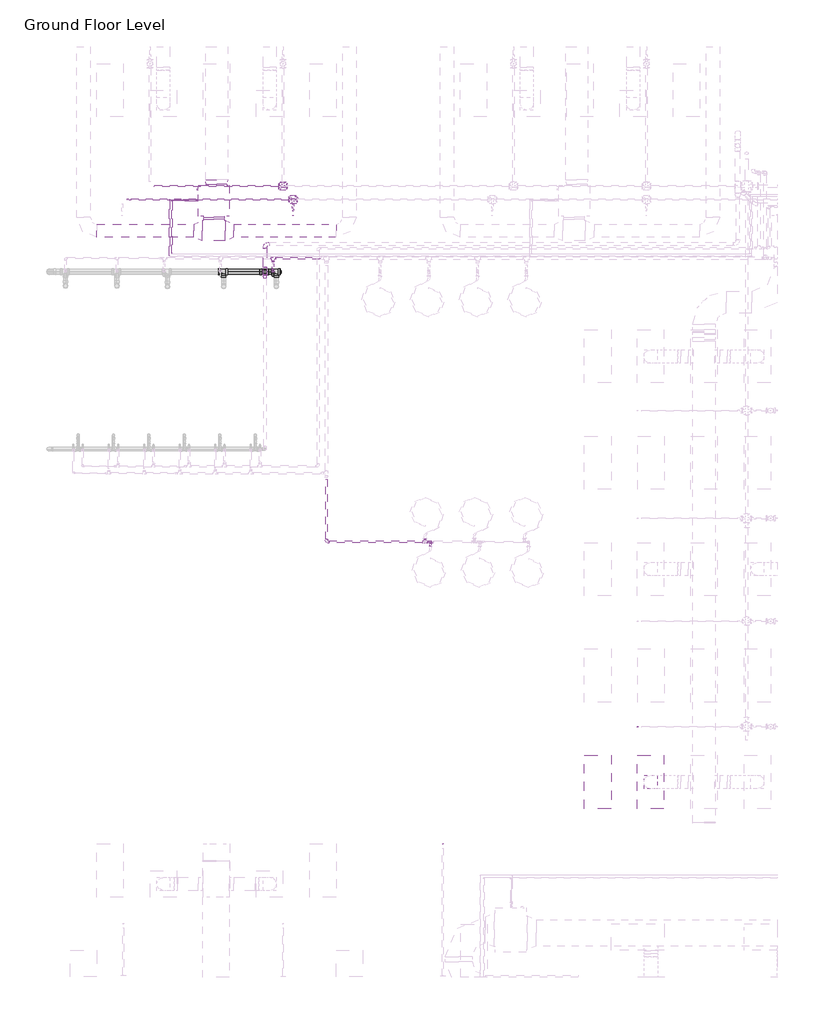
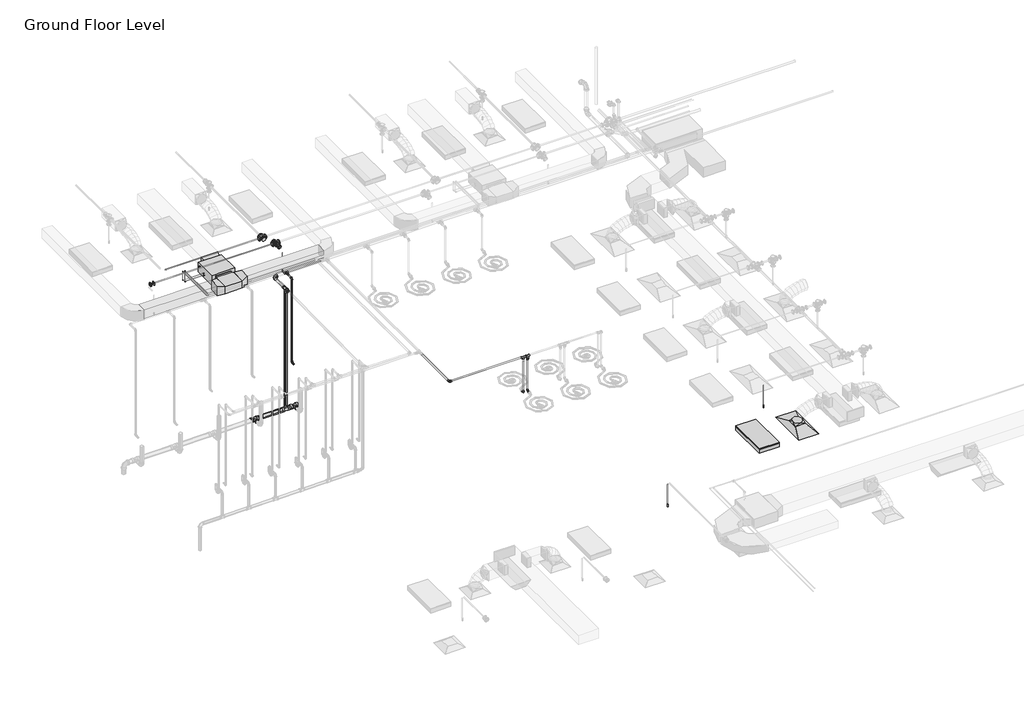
# One storey, part 43 of 74: 28 pipe segments, 25 pipe fittings, 5 duct fittings, 3 duct segments, 3 fire suppression terminals, 1 air terminal, 1 light fixture, 1 proxy.
"""IFC4 building model written with IfcOpenShell, lengths in millimetres."""

from ifc_helpers import new_model, si_unit, point, frame, frame_2d, origin, place, context, project, spatial, polyline, circle_curve, trimmed, segment, composite_curve, outline, extrude, transform, mapped, element, save
from components import m_return_diffuser_1200x600_1200_x_600_face_300_x_300_d1983ef6, fcu_daikin_iu_bad131e0, m_rectangular_tee_standard_fa4de0e8, m_rectangular_transition_angle_45_degree_5a11b24e, m_rectangular_transition_angle_45_degree_6e5ad010, m_rectangular_to_round_transition_angle_45_degree_641efff0, m_sprinkler_dry_pendent_hosted_15_mm_dry_pendent_9bda8e11, m_sprinkler_pendent_15_mm_pendent_06fcbd8e, m_troffer_light_parabolic_rectangular1_0600x1200mm_4_lamp_86473d4a, m_bend_pvc_sch_40_dwv_standard_1fdc8943, m_elbow_generic_standard_a088f956, m_elbow_generic_standard_2a704253, m_plug_pvc_sch_40_dwv_standard_6c40de1c, m_reducer_flanged_cs_class_150_standard_ccf252ad, m_reducer_pvc_sch_40_dwv_standard_d6f2da47, m_tee_reducing_sanitary_pvc_sch_40_dwv_standard_b49161a9, m_tee_reducing_sanitary_pvc_sch_40_dwv_standard_35af4ecc, m_tee_reducing_sanitary_pvc_sch_40_dwv_standard_9cd1363b, m_tee_round_base_flanged_cs_class_150_standard_7e5987a1, standard_517a5a8d, standard_08ff6011, standard_d0d0b892, standard_69e4ce0e

model = new_model("IFC4")

# Units and contexts
model_context = context("Model", 3, world=origin())
ifc_project = project(units=[si_unit("LENGTHUNIT", "METRE", prefix="MILLI")], contexts=[model_context])

# Site, building, storey
site = spatial("IfcSite", under=ifc_project)
building = spatial("IfcBuilding", under=site)
storey = spatial("IfcBuildingStorey", under=building, Name="Ground Floor Level", Elevation=900.0)

# Air terminal
placement = place(None, origin())
m_return_diffuser_1200x600_1200_x_600_face_300_x_300_shape = m_return_diffuser_1200x600_1200_x_600_face_300_x_300_d1983ef6(model_context)
element("IfcAirTerminal", 1, ObjectType="M_Supply Diffuser 1200x600 : 1200 x 600 Face 300 x 300 Connection", at=placement, inside=storey, context=model_context, shape_type="MappedRepresentation", body=[
    mapped(m_return_diffuser_1200x600_1200_x_600_face_300_x_300_shape, transform((-8142.6846929, 1635.2153534, 3650.0), x_axis=(0.0, 1.0, 0.0), y_axis=(-1.0, 0.0, 0.0), z_axis=(0.0, 0.0, 1.0))),
])

# Proxy
fcu_daikin_iu_shape = fcu_daikin_iu_bad131e0(model_context)
element("IfcBuildingElementProxy", 2, Name="FCU-DAIKIN IU : 4.5kW, 230V/50Hz/1Ph", ObjectType="FCU-DAIKIN IU : 4.5kW, 230V/50Hz/1Ph", at=placement, inside=storey, context=model_context, shape_type="MappedRepresentation", body=[
    mapped(fcu_daikin_iu_shape, transform((-17997.2327605, 14745.2153534, 3934.0881511), x_axis=(-1.0, 0.0, 0.0), y_axis=(0.0, -1.0, 0.0), z_axis=(0.0, 0.0, 1.0))),
])

# Duct fittings
m_rectangular_tee_standard_shape = m_rectangular_tee_standard_fa4de0e8(model_context)
element("IfcDuctFitting", 3, ObjectType="M_Rectangular Tee : Standard", at=placement, inside=storey, context=model_context, shape_type="MappedRepresentation", body=[
    mapped(m_rectangular_tee_standard_shape, transform((-17997.2327605, 14069.8153534, 4075.2881511), x_axis=(-1.0, 0.0, 0.0), y_axis=(0.0, -1.0, 0.0), z_axis=(0.0, 0.0, 1.0))),
])
m_rectangular_transition_angle_45_degree_shape = m_rectangular_transition_angle_45_degree_5a11b24e(model_context)
element("IfcDuctFitting", 4, ObjectType="M_Rectangular Transition - Angle : 45 Degree", at=placement, inside=storey, context=model_context, shape_type="MappedRepresentation", body=[
    mapped(m_rectangular_transition_angle_45_degree_shape, transform((-17933.7327605, 15120.6153534, 4100.0006511), x_axis=(0.0, 1.0, 0.0), y_axis=(-1.0, 0.0, 0.0), z_axis=(0.0, 0.0, 1.0))),
])
m_rectangular_transition_angle_45_degree_2_shape = m_rectangular_transition_angle_45_degree_6e5ad010(model_context)
element("IfcDuctFitting", 5, ObjectType="M_Rectangular Transition - Angle : 45 Degree", at=placement, inside=storey, context=model_context, shape_type="MappedRepresentation", body=[
    mapped(m_rectangular_transition_angle_45_degree_2_shape, transform((-17741.2952605, 14069.8153534, 4075.2881511), x_axis=(1.0, 0.0, 0.0), y_axis=(0.0, 1.0, 0.0), z_axis=(0.0, 0.0, 1.0))),
])
element("IfcDuctFitting", 6, ObjectType="M_Rectangular Transition - Angle : 45 Degree", at=placement, inside=storey, context=model_context, shape_type="MappedRepresentation", body=[
    mapped(m_rectangular_transition_angle_45_degree_2_shape, transform((-18253.1702605, 14069.8153534, 4075.2881511), x_axis=(-1.0, 0.0, 0.0), y_axis=(0.0, -1.0, 0.0), z_axis=(0.0, 0.0, 1.0))),
])
m_rectangular_to_round_transition_angle_45_degree_shape = m_rectangular_to_round_transition_angle_45_degree_641efff0(model_context)
element("IfcDuctFitting", 7, ObjectType="M_Rectangular to Round Transition - Angle : 45 Degree", at=placement, inside=storey, context=model_context, shape_type="MappedRepresentation", body=[
    mapped(m_rectangular_to_round_transition_angle_45_degree_shape, transform((-8142.6846929, 1635.2153534, 3751.6), x_axis=(0.0, 0.0, 1.0), y_axis=(-1.0, 0.0, 0.0), z_axis=(0.0, -1.0, 0.0))),
])

# Duct segments
element("IfcDuctSegment", 8, ObjectType="Radius Elbows / Taps", at=placement, inside=storey, context=model_context, shape_type="SweptSolid", body=[
    extrude(outline(polyline([(-18228.1702605, 14369.8153534), (-17766.2952605, 14369.8153534), (-17766.2952605, 14325.7528534), (-18228.1702605, 14325.7528534), (-18228.1702605, 14369.8153534)])), frame((0.0, 0.0, 3968.1381511), z_axis=(0.0, 0.0, 1.0), x_axis=(1.0, 0.0, 0.0)), (0.0, 0.0, 1.0), 214.3),
])
element("IfcDuctSegment", 9, ObjectType="Radius Elbows / Taps", at=placement, inside=storey, context=model_context, shape_type="SweptSolid", body=[
    extrude(outline(polyline([(-17545.8948503, 13919.8153534), (-17545.8948503, 14219.8153534), (-15237.2327605, 14219.8153534), (-15237.2327605, 13919.8153534), (-17545.8948503, 13919.8153534)])), frame((0.0, 0.0, 3925.2881511), z_axis=(0.0, 0.0, 1.0), x_axis=(1.0, 0.0, 0.0)), (0.0, 0.0, 1.0), 300.0),
])
element("IfcDuctSegment", 10, ObjectType="Radius Elbows / Taps", at=placement, inside=storey, context=model_context, shape_type="SweptSolid", body=[
    extrude(outline(polyline([(-18448.5706707, 14219.8153534), (-18448.5706707, 13919.8153534), (-20637.2327605, 13919.8153534), (-20637.2327605, 14219.8153534), (-18448.5706707, 14219.8153534)])), frame((0.0, 0.0, 3925.2881511), z_axis=(0.0, 0.0, 1.0), x_axis=(1.0, 0.0, 0.0)), (0.0, 0.0, 1.0), 300.0),
])

# Fire suppression terminals
m_sprinkler_dry_pendent_hosted_15_mm_dry_pendent_shape = m_sprinkler_dry_pendent_hosted_15_mm_dry_pendent_9bda8e11(model_context)
element("IfcFireSuppressionTerminal", 11, ObjectType="M_Sprinkler - Dry - Pendent - Hosted : 15 mm Dry Pendent", at=placement, inside=storey, context=model_context, shape_type="MappedRepresentation", body=[
    mapped(m_sprinkler_dry_pendent_hosted_15_mm_dry_pendent_shape, transform((-8437.2327605, 2881.5134565, 3650.0), x_axis=(1.0, 0.0, 0.0), y_axis=(0.0, -1.0, 0.0), z_axis=(0.0, 0.0, -1.0))),
])
element("IfcFireSuppressionTerminal", 12, ObjectType="M_Sprinkler - Dry - Pendent - Hosted : 15 mm Dry Pendent", at=placement, inside=storey, context=model_context, shape_type="MappedRepresentation", body=[
    mapped(m_sprinkler_dry_pendent_hosted_15_mm_dry_pendent_shape, transform((-12837.2327605, 235.2153534, 3650.0), x_axis=(1.0, 0.0, 0.0), y_axis=(0.0, -1.0, 0.0), z_axis=(0.0, 0.0, -1.0))),
])
m_sprinkler_pendent_15_mm_pendent_shape = m_sprinkler_pendent_15_mm_pendent_06fcbd8e(model_context)
element("IfcFireSuppressionTerminal", 13, ObjectType="M_Sprinkler - Pendent : 15 mm Pendent", at=placement, inside=storey, context=model_context, shape_type="MappedRepresentation", body=[
    mapped(m_sprinkler_pendent_15_mm_pendent_shape, transform((-16210.1138499, 14412.7243649, 3650.0), x_axis=(1.0, 0.0, 0.0), y_axis=(0.0, 1.0, 0.0), z_axis=(0.0, 0.0, 1.0))),
])

# Light fixture
m_troffer_light_parabolic_rectangular1_0600x1200mm_4_lamp_shape = m_troffer_light_parabolic_rectangular1_0600x1200mm_4_lamp_86473d4a(model_context)
element("IfcLightFixture", 14, ObjectType="M_Troffer Light - Parabolic Rectangular1 : 0600x1200mm(4 Lamp) - 277V 2", at=placement, inside=storey, context=model_context, shape_type="MappedRepresentation", body=[
    mapped(m_troffer_light_parabolic_rectangular1_0600x1200mm_4_lamp_shape, transform((-9396.6986926, 1653.918855, 3650.0), x_axis=(0.0, 1.0, 0.0), y_axis=(-1.0, 0.0, 0.0), z_axis=(0.0, 0.0, 1.0))),
])

# Pipe fittings
m_bend_pvc_sch_40_dwv_standard_shape = m_bend_pvc_sch_40_dwv_standard_1fdc8943(model_context)
element("IfcPipeFitting", 15, ObjectType="M_Bend - PVC - Sch 40 - DWV : Standard", at=placement, inside=storey, context=model_context, shape_type="MappedRepresentation", body=[
    mapped(m_bend_pvc_sch_40_dwv_standard_shape, transform((-16844.3158637, 13768.8048932, 4050.2768363), x_axis=(-0.9999500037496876, 0.0, -0.009999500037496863), y_axis=(0.0, -1.0, 0.0), z_axis=(-0.009999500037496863, 0.0, 0.9999500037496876))),
])
m_elbow_generic_standard_shape = m_elbow_generic_standard_a088f956(model_context)
element("IfcPipeFitting", 16, ObjectType="M_Elbow - Generic : Standard", at=placement, inside=storey, context=model_context, shape_type="MappedRepresentation", body=[
    mapped(m_elbow_generic_standard_shape, transform((-18945.3327605, 14745.2153534, 4034.0881511), x_axis=(-1.0, 0.0, 0.0), y_axis=(0.0, 0.0, 1.0), z_axis=(0.0, 1.0, 0.0))),
])
element("IfcPipeFitting", 17, ObjectType="M_Elbow - Generic : Standard", at=placement, inside=storey, context=model_context, shape_type="MappedRepresentation", body=[
    mapped(m_elbow_generic_standard_shape, transform((-18945.3327605, 14745.2153534, 4380.0), x_axis=(0.0, 0.0, 1.0), y_axis=(0.0, -1.0, 0.0), z_axis=(1.0, 0.0, 0.0))),
])
m_elbow_generic_standard_2_shape = m_elbow_generic_standard_2a704253(model_context)
element("IfcPipeFitting", 18, ObjectType="M_Elbow - Generic : Standard", at=placement, inside=storey, context=model_context, shape_type="MappedRepresentation", body=[
    mapped(m_elbow_generic_standard_2_shape, transform((-18995.0192947, 14770.2153534, 4365.0), x_axis=(0.0, 1.0, 0.0), y_axis=(0.0, 0.0, -1.0), z_axis=(-1.0, 0.0, 0.0))),
])
element("IfcPipeFitting", 19, ObjectType="M_Elbow - Generic : Standard", at=placement, inside=storey, context=model_context, shape_type="MappedRepresentation", body=[
    mapped(m_elbow_generic_standard_2_shape, transform((-18995.0192947, 14770.2153534, 4084.8881511), x_axis=(0.0, 0.0, -1.0), y_axis=(1.0, 0.0, 0.0), z_axis=(0.0, -1.0, 0.0))),
])
m_plug_pvc_sch_40_dwv_standard_shape = m_plug_pvc_sch_40_dwv_standard_6c40de1c(model_context)
element("IfcPipeFitting", 20, ObjectType="M_Plug - PVC - Sch 40 - DWV : Standard", at=placement, inside=storey, context=model_context, shape_type="MappedRepresentation", body=[
    mapped(m_plug_pvc_sch_40_dwv_standard_shape, transform((-16497.5246709, 13143.7240477, 252.0903992), x_axis=(0.9999500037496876, 0.0, 0.009999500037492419), y_axis=(0.0, 1.0, 0.0), z_axis=(-0.009999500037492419, 0.0, 0.9999500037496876))),
])
m_reducer_flanged_cs_class_150_standard_shape = m_reducer_flanged_cs_class_150_standard_ccf252ad(model_context)
element("IfcPipeFitting", 21, ObjectType="M_Reducer - Flanged - CS - Class 150 : Standard", at=placement, inside=storey, context=model_context, shape_type="MappedRepresentation", body=[
    mapped(m_reducer_flanged_cs_class_150_standard_shape, transform((-19856.6717995, 14773.4681847, 4291.0943441), x_axis=(-1.0, 0.0, 0.0), y_axis=(0.0, -1.0, 0.0), z_axis=(0.0, 0.0, 1.0))),
])
element("IfcPipeFitting", 22, ObjectType="M_Reducer - Flanged - CS - Class 150 : Standard", at=placement, inside=storey, context=model_context, shape_type="MappedRepresentation", body=[
    mapped(m_reducer_flanged_cs_class_150_standard_shape, transform((-16210.1138499, 14672.759591, 4291.0943441), x_axis=(0.0, -1.0, 0.0), y_axis=(1.0, 0.0, 0.0), z_axis=(0.0, 0.0, 1.0))),
])
m_reducer_pvc_sch_40_dwv_standard_shape = m_reducer_pvc_sch_40_dwv_standard_d6f2da47(model_context)
element("IfcPipeFitting", 23, ObjectType="M_Reducer - PVC - Sch 40 - DWV : Standard", at=placement, inside=storey, context=model_context, shape_type="MappedRepresentation", body=[
    mapped(m_reducer_pvc_sch_40_dwv_standard_shape, transform((-16844.3158637, 13068.078397, 4049.9889294), x_axis=(0.0, -0.9999576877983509, -0.009199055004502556), y_axis=(1.0000000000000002, 0.0, 0.0), z_axis=(0.0, -0.009199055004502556, 0.9999576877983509))),
])
m_tee_reducing_sanitary_pvc_sch_40_dwv_standard_shape = m_tee_reducing_sanitary_pvc_sch_40_dwv_standard_b49161a9(model_context)
element("IfcPipeFitting", 24, ObjectType="M_Tee Reducing Sanitary - PVC - Sch 40 - DWV : Standard", at=placement, inside=storey, context=model_context, shape_type="MappedRepresentation", body=[
    mapped(m_tee_reducing_sanitary_pvc_sch_40_dwv_standard_shape, transform((-17775.8329095, 13143.7240477, 239.3073168), x_axis=(0.9999500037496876, 0.0, 0.00999950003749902), y_axis=(0.0, 1.0000000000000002, 0.0), z_axis=(-0.00999950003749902, 0.0, 0.9999500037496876))),
])
element("IfcPipeFitting", 25, ObjectType="M_Tee Reducing Sanitary - PVC - Sch 40 - DWV : Standard", at=placement, inside=storey, context=model_context, shape_type="MappedRepresentation", body=[
    mapped(m_tee_reducing_sanitary_pvc_sch_40_dwv_standard_shape, transform((-16586.4202262, 13143.7240477, 251.2014437), x_axis=(0.9999500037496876, 0.0, 0.009999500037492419), y_axis=(0.0, 1.0, 0.0), z_axis=(-0.009999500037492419, 0.0, 0.9999500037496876))),
])
m_tee_reducing_sanitary_pvc_sch_40_dwv_standard_2_shape = m_tee_reducing_sanitary_pvc_sch_40_dwv_standard_35af4ecc(model_context)
element("IfcPipeFitting", 26, ObjectType="M_Tee Reducing Sanitary - PVC - Sch 40 - DWV : Standard", at=placement, inside=storey, context=model_context, shape_type="MappedRepresentation", body=[
    mapped(m_tee_reducing_sanitary_pvc_sch_40_dwv_standard_2_shape, transform((-16844.3824695, 13143.7240477, 248.6218212), x_axis=(0.9999500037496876, 0.0, 0.00999950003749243), y_axis=(0.00999950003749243, 0.0, -0.9999500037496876), z_axis=(0.0, 1.0, 0.0))),
])
m_tee_reducing_sanitary_pvc_sch_40_dwv_standard_3_shape = m_tee_reducing_sanitary_pvc_sch_40_dwv_standard_9cd1363b(model_context)
element("IfcPipeFitting", 27, ObjectType="M_Tee Reducing Sanitary - PVC - Sch 40 - DWV : Standard", at=placement, inside=storey, context=model_context, shape_type="MappedRepresentation", body=[
    mapped(m_tee_reducing_sanitary_pvc_sch_40_dwv_standard_3_shape, transform((-16844.3158637, 13143.7240477, 4050.2768363), x_axis=(0.0, -1.0, 0.0), y_axis=(-2.9192257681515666e-06, 0.0, 0.9999999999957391), z_axis=(-0.9999999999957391, 0.0, -2.9192257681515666e-06))),
])
m_tee_round_base_flanged_cs_class_150_standard_shape = m_tee_round_base_flanged_cs_class_150_standard_7e5987a1(model_context)
element("IfcPipeFitting", 28, ObjectType="M_Tee Round Base - Flanged - CS - Class 150 : Standard", at=placement, inside=storey, context=model_context, shape_type="MappedRepresentation", body=[
    mapped(m_tee_round_base_flanged_cs_class_150_standard_shape, transform((-16210.1138499, 14773.4681847, 4291.0943441), x_axis=(-1.0, 0.0, 0.0), y_axis=(0.0, 1.0, 0.0), z_axis=(0.0, 0.0, -1.0))),
])
element("IfcPipeFitting", 29, ObjectType="M_Tee Round Base - Flanged - CS - Class 150 : Standard", at=placement, inside=storey, context=model_context, shape_type="MappedRepresentation", body=[
    mapped(m_tee_round_base_flanged_cs_class_150_standard_shape, transform((-16437.2327605, 15073.2009828, 4360.0), x_axis=(-1.0, 0.0, 0.0), y_axis=(0.0, -1.0, 0.0), z_axis=(0.0, 0.0, 1.0))),
])
standard_shape = standard_517a5a8d(model_context)
element("IfcPipeFitting", 30, ObjectType="M_Elbow - CPVC - Sch 40 : Standard", at=placement, inside=storey, context=model_context, shape_type="MappedRepresentation", body=[
    mapped(standard_shape, transform((-16659.8589924, 13149.9865561, 4315.0), x_axis=(0.0, 0.0, 1.0), y_axis=(0.0, 1.0, 0.0), z_axis=(-1.0, 0.0, 0.0))),
])
element("IfcPipeFitting", 31, ObjectType="M_Elbow - CPVC - Sch 40 : Standard", at=placement, inside=storey, context=model_context, shape_type="MappedRepresentation", body=[
    mapped(standard_shape, transform((-16659.8589924, 13149.9865561, 1655.0), x_axis=(0.0, 0.0, -1.0), y_axis=(0.0, -1.0, 0.0), z_axis=(-1.0, 0.0, 0.0))),
])
element("IfcPipeFitting", 32, ObjectType="M_Elbow - CPVC - Sch 40 : Standard", at=placement, inside=storey, context=model_context, shape_type="MappedRepresentation", body=[
    mapped(standard_shape, transform((-13107.2327605, 7049.9865561, 3200.0), x_axis=(0.0, 0.0, -1.0), y_axis=(0.0, -1.0, 0.0), z_axis=(-1.0, 0.0, 0.0))),
])
element("IfcPipeFitting", 33, ObjectType="M_Elbow - CPVC - Sch 40 : Standard", at=placement, inside=storey, context=model_context, shape_type="MappedRepresentation", body=[
    mapped(standard_shape, transform((-13232.2327605, 7049.9865561, 3200.0), x_axis=(0.0, 0.0, -1.0), y_axis=(0.0, 1.0, 0.0), z_axis=(1.0, 0.0, 0.0))),
])
standard_2_shape = standard_08ff6011(model_context)
element("IfcPipeFitting", 34, ObjectType="M_Tee - CPVC - Sch 40 : Standard", at=placement, inside=storey, context=model_context, shape_type="MappedRepresentation", body=[
    mapped(standard_2_shape, transform((-16659.8589924, 13449.9865561, 4315.0), x_axis=(-1.0, 0.0, 0.0), y_axis=(0.0, 1.0, 0.0), z_axis=(0.0, 0.0, -1.0))),
])
element("IfcPipeFitting", 35, ObjectType="M_Tee - CPVC - Sch 40 : Standard", at=placement, inside=storey, context=model_context, shape_type="MappedRepresentation", body=[
    mapped(standard_2_shape, transform((-13107.2327605, 7049.9865561, 4315.0), x_axis=(-1.0, 0.0, 0.0), y_axis=(0.0, 0.0, 1.0), z_axis=(0.0, 1.0, 0.0))),
])
element("IfcPipeFitting", 36, ObjectType="M_Tee - CPVC - Sch 40 : Standard", at=placement, inside=storey, context=model_context, shape_type="MappedRepresentation", body=[
    mapped(standard_2_shape, transform((-13232.2327605, 7049.9865561, 4315.0), x_axis=(-1.0, 0.0, 0.0), y_axis=(0.0, 0.0, 1.0), z_axis=(0.0, 1.0, 0.0))),
])
standard_3_shape = standard_d0d0b892(model_context)
element("IfcPipeFitting", 37, ObjectType="M_Coupling Reducing - CPVC - Sch 40 : Standard", at=placement, inside=storey, context=model_context, shape_type="MappedRepresentation", body=[
    mapped(standard_3_shape, transform((-16659.8589924, 13396.0115561, 4315.0), x_axis=(0.0, -1.0, 0.0), y_axis=(1.0, 0.0, 0.0), z_axis=(0.0, 0.0, 1.0))),
])
element("IfcPipeFitting", 38, ObjectType="M_Coupling Reducing - CPVC - Sch 40 : Standard", at=placement, inside=storey, context=model_context, shape_type="MappedRepresentation", body=[
    mapped(standard_3_shape, transform((-13107.2327605, 7049.9865561, 4261.025), x_axis=(0.0, 0.0, -1.0), y_axis=(1.0, 0.0, 0.0), z_axis=(0.0, -1.0, 0.0))),
])
standard_4_shape = standard_69e4ce0e(model_context)
element("IfcPipeFitting", 39, ObjectType="M_Elbow - CPVC - Sch 40 : Standard", at=placement, inside=storey, context=model_context, shape_type="MappedRepresentation", body=[
    mapped(standard_4_shape, transform((-15455.6408298, 7049.9865561, 4315.0), x_axis=(0.0, -1.0, 0.0), y_axis=(1.0, 0.0, 0.0), z_axis=(0.0, 0.0, 1.0))),
])

# Pipe segments
element("IfcPipeSegment", 40, ObjectType="CPVC", at=placement, inside=storey, context=model_context, shape_type="SweptSolid", body=[
    extrude(outline(composite_curve([segment(trimmed(circle_curve(frame_2d((1655.0, -16659.8589924)), 16.7005), [point((1655.0, -16676.5594924))], [point((1638.2995, -16659.8589924))], False, "CARTESIAN"), True, "CONTINUOUS"), segment(trimmed(circle_curve(frame_2d((1655.0, -16659.8589924)), 16.7005), [point((1638.2995, -16659.8589924))], [point((1655.0, -16643.1584924))], False, "CARTESIAN"), True, "CONTINUOUS"), segment(trimmed(circle_curve(frame_2d((1655.0, -16659.8589924)), 16.7005), [point((1655.0, -16643.1584924))], [point((1671.7005, -16659.8589924))], False, "CARTESIAN"), True, "CONTINUOUS"), segment(trimmed(circle_curve(frame_2d((1655.0, -16659.8589924)), 16.7005), [point((1671.7005, -16659.8589924))], [point((1655.0, -16676.5594924))], False, "CARTESIAN"), True, "CONTINUOUS")], self_intersect=False)), frame((0.0, 13045.2153534, 0.0), z_axis=(0.0, 1.0, 0.0), x_axis=(0.0, 0.0, 1.0)), (0.0, 0.0, 1.0), 61.5086528),
])
element("IfcPipeSegment", 41, ObjectType="CPVC", at=placement, inside=storey, context=model_context, shape_type="SweptSolid", body=[
    extrude(outline(composite_curve([segment(trimmed(circle_curve(frame_2d((-16659.8589924, 13149.9865561)), 16.7005), [point((-16676.5594924, 13149.9865561))], [point((-16659.8589924, 13166.6870561))], False, "CARTESIAN"), True, "CONTINUOUS"), segment(trimmed(circle_curve(frame_2d((-16659.8589924, 13149.9865561)), 16.7005), [point((-16659.8589924, 13166.6870561))], [point((-16643.1584924, 13149.9865561))], False, "CARTESIAN"), True, "CONTINUOUS"), segment(trimmed(circle_curve(frame_2d((-16659.8589924, 13149.9865561)), 16.7005), [point((-16643.1584924, 13149.9865561))], [point((-16659.8589924, 13133.2860561))], False, "CARTESIAN"), True, "CONTINUOUS"), segment(trimmed(circle_curve(frame_2d((-16659.8589924, 13149.9865561)), 16.7005), [point((-16659.8589924, 13133.2860561))], [point((-16676.5594924, 13149.9865561))], False, "CARTESIAN"), True, "CONTINUOUS")], self_intersect=False)), frame((0.0, 0.0, 1698.26255), z_axis=(0.0, 0.0, 1.0), x_axis=(1.0, 0.0, 0.0)), (0.0, 0.0, 1.0), 2573.4749),
])
element("IfcPipeSegment", 42, ObjectType="CPVC", at=placement, inside=storey, context=model_context, shape_type="SweptSolid", body=[
    extrude(outline(composite_curve([segment(trimmed(circle_curve(frame_2d((4315.0, -16659.8589924)), 16.7005), [point((4315.0, -16643.1584924))], [point((4331.7005, -16659.8589924))], False, "CARTESIAN"), True, "CONTINUOUS"), segment(trimmed(circle_curve(frame_2d((4315.0, -16659.8589924)), 16.7005), [point((4331.7005, -16659.8589924))], [point((4315.0, -16676.5594924))], False, "CARTESIAN"), True, "CONTINUOUS"), segment(trimmed(circle_curve(frame_2d((4315.0, -16659.8589924)), 16.7005), [point((4315.0, -16676.5594924))], [point((4298.2995, -16659.8589924))], False, "CARTESIAN"), True, "CONTINUOUS"), segment(trimmed(circle_curve(frame_2d((4315.0, -16659.8589924)), 16.7005), [point((4298.2995, -16659.8589924))], [point((4315.0, -16643.1584924))], False, "CARTESIAN"), True, "CONTINUOUS")], self_intersect=False)), frame((0.0, 13193.2491061, 0.0), z_axis=(0.0, 1.0, 0.0), x_axis=(0.0, 0.0, 1.0)), (0.0, 0.0, 1.0), 136.643575),
])
element("IfcPipeSegment", 43, ObjectType="CPVC", at=placement, inside=storey, context=model_context, shape_type="SweptSolid", body=[
    extrude(outline(composite_curve([segment(trimmed(circle_curve(frame_2d((4315.0, -15455.6408298)), 21.082), [point((4315.0, -15476.7228298))], [point((4293.918, -15455.6408298))], False, "CARTESIAN"), True, "CONTINUOUS"), segment(trimmed(circle_curve(frame_2d((4315.0, -15455.6408298)), 21.082), [point((4293.918, -15455.6408298))], [point((4315.0, -15434.5588298))], False, "CARTESIAN"), True, "CONTINUOUS"), segment(trimmed(circle_curve(frame_2d((4315.0, -15455.6408298)), 21.082), [point((4315.0, -15434.5588298))], [point((4336.082, -15455.6408298))], False, "CARTESIAN"), True, "CONTINUOUS"), segment(trimmed(circle_curve(frame_2d((4315.0, -15455.6408298)), 21.082), [point((4336.082, -15455.6408298))], [point((4315.0, -15476.7228298))], False, "CARTESIAN"), True, "CONTINUOUS")], self_intersect=False)), frame((0.0, 7107.9303061, 0.0), z_axis=(0.0, 1.0, 0.0), x_axis=(0.0, 0.0, 1.0)), (0.0, 0.0, 1.0), 1355.4879172),
])
element("IfcPipeSegment", 44, ObjectType="CPVC", at=placement, inside=storey, context=model_context, shape_type="SweptSolid", body=[
    extrude(outline(composite_curve([segment(trimmed(circle_curve(frame_2d((13449.9865561, 4315.0)), 21.082), [point((13428.9045561, 4315.0))], [point((13449.9865561, 4336.082))], False, "CARTESIAN"), True, "CONTINUOUS"), segment(trimmed(circle_curve(frame_2d((13449.9865561, 4315.0)), 21.082), [point((13449.9865561, 4336.082))], [point((13471.0685561, 4315.0))], False, "CARTESIAN"), True, "CONTINUOUS"), segment(trimmed(circle_curve(frame_2d((13449.9865561, 4315.0)), 21.082), [point((13471.0685561, 4315.0))], [point((13449.9865561, 4293.918))], False, "CARTESIAN"), True, "CONTINUOUS"), segment(trimmed(circle_curve(frame_2d((13449.9865561, 4315.0)), 21.082), [point((13449.9865561, 4293.918))], [point((13428.9045561, 4315.0))], False, "CARTESIAN"), True, "CONTINUOUS")], self_intersect=False)), frame((-16605.8839924, 0.0, 0.0), z_axis=(1.0, 0.0, 0.0), x_axis=(0.0, 1.0, 0.0)), (0.0, 0.0, 1.0), 998.2294126),
])
element("IfcPipeSegment", 45, ObjectType="CPVC", at=placement, inside=storey, context=model_context, shape_type="SweptSolid", body=[
    extrude(outline(composite_curve([segment(trimmed(circle_curve(frame_2d((3200.0, -13107.2327605)), 16.7005), [point((3200.0, -13123.9332605))], [point((3183.2995, -13107.2327605))], False, "CARTESIAN"), True, "CONTINUOUS"), segment(trimmed(circle_curve(frame_2d((3200.0, -13107.2327605)), 16.7005), [point((3183.2995, -13107.2327605))], [point((3200.0, -13090.5322605))], False, "CARTESIAN"), True, "CONTINUOUS"), segment(trimmed(circle_curve(frame_2d((3200.0, -13107.2327605)), 16.7005), [point((3200.0, -13090.5322605))], [point((3216.7005, -13107.2327605))], False, "CARTESIAN"), True, "CONTINUOUS"), segment(trimmed(circle_curve(frame_2d((3200.0, -13107.2327605)), 16.7005), [point((3216.7005, -13107.2327605))], [point((3200.0, -13123.9332605))], False, "CARTESIAN"), True, "CONTINUOUS")], self_intersect=False)), frame((0.0, 6956.8347997, 0.0), z_axis=(0.0, 1.0, 0.0), x_axis=(0.0, 0.0, 1.0)), (0.0, 0.0, 1.0), 49.8892064),
])
element("IfcPipeSegment", 46, ObjectType="CPVC", at=placement, inside=storey, context=model_context, shape_type="SweptSolid", body=[
    extrude(outline(composite_curve([segment(trimmed(circle_curve(frame_2d((-13107.2327605, 7049.9865561)), 16.7005), [point((-13090.5322605, 7049.9865561))], [point((-13107.2327605, 7033.2860561))], False, "CARTESIAN"), True, "CONTINUOUS"), segment(trimmed(circle_curve(frame_2d((-13107.2327605, 7049.9865561)), 16.7005), [point((-13107.2327605, 7033.2860561))], [point((-13123.9332605, 7049.9865561))], False, "CARTESIAN"), True, "CONTINUOUS"), segment(trimmed(circle_curve(frame_2d((-13107.2327605, 7049.9865561)), 16.7005), [point((-13123.9332605, 7049.9865561))], [point((-13107.2327605, 7066.6870561))], False, "CARTESIAN"), True, "CONTINUOUS"), segment(trimmed(circle_curve(frame_2d((-13107.2327605, 7049.9865561)), 16.7005), [point((-13107.2327605, 7066.6870561))], [point((-13090.5322605, 7049.9865561))], False, "CARTESIAN"), True, "CONTINUOUS")], self_intersect=False)), frame((0.0, 0.0, 3243.26255), z_axis=(0.0, 0.0, 1.0), x_axis=(1.0, 0.0, 0.0)), (0.0, 0.0, 1.0), 951.643575),
])
element("IfcPipeSegment", 47, ObjectType="CPVC", at=placement, inside=storey, context=model_context, shape_type="SweptSolid", body=[
    extrude(outline(composite_curve([segment(trimmed(circle_curve(frame_2d((7049.9865561, 4315.0)), 21.082), [point((7028.9045561, 4315.0))], [point((7049.9865561, 4336.082))], False, "CARTESIAN"), True, "CONTINUOUS"), segment(trimmed(circle_curve(frame_2d((7049.9865561, 4315.0)), 21.082), [point((7049.9865561, 4336.082))], [point((7071.0685561, 4315.0))], False, "CARTESIAN"), True, "CONTINUOUS"), segment(trimmed(circle_curve(frame_2d((7049.9865561, 4315.0)), 21.082), [point((7071.0685561, 4315.0))], [point((7049.9865561, 4293.918))], False, "CARTESIAN"), True, "CONTINUOUS"), segment(trimmed(circle_curve(frame_2d((7049.9865561, 4315.0)), 21.082), [point((7049.9865561, 4293.918))], [point((7028.9045561, 4315.0))], False, "CARTESIAN"), True, "CONTINUOUS")], self_intersect=False)), frame((-13178.2577605, 0.0, 0.0), z_axis=(1.0, 0.0, 0.0), x_axis=(0.0, 1.0, 0.0)), (0.0, 0.0, 1.0), 17.05),
])
element("IfcPipeSegment", 48, ObjectType="CPVC", at=placement, inside=storey, context=model_context, shape_type="SweptSolid", body=[
    extrude(outline(composite_curve([segment(trimmed(circle_curve(frame_2d((3200.0, -13232.2327605)), 16.7005), [point((3200.0, -13215.5322605))], [point((3216.7005, -13232.2327605))], False, "CARTESIAN"), True, "CONTINUOUS"), segment(trimmed(circle_curve(frame_2d((3200.0, -13232.2327605)), 16.7005), [point((3216.7005, -13232.2327605))], [point((3200.0, -13248.9332605))], False, "CARTESIAN"), True, "CONTINUOUS"), segment(trimmed(circle_curve(frame_2d((3200.0, -13232.2327605)), 16.7005), [point((3200.0, -13248.9332605))], [point((3183.2995, -13232.2327605))], False, "CARTESIAN"), True, "CONTINUOUS"), segment(trimmed(circle_curve(frame_2d((3200.0, -13232.2327605)), 16.7005), [point((3183.2995, -13232.2327605))], [point((3200.0, -13215.5322605))], False, "CARTESIAN"), True, "CONTINUOUS")], self_intersect=False)), frame((0.0, 7093.2491061, 0.0), z_axis=(0.0, 1.0, 0.0), x_axis=(0.0, 0.0, 1.0)), (0.0, 0.0, 1.0), 30.346801),
])
element("IfcPipeSegment", 49, ObjectType="CPVC", at=placement, inside=storey, context=model_context, shape_type="SweptSolid", body=[
    extrude(outline(composite_curve([segment(trimmed(circle_curve(frame_2d((-13232.2327605, 7049.9865561)), 16.7005), [point((-13215.5322605, 7049.9865561))], [point((-13232.2327605, 7033.2860561))], False, "CARTESIAN"), True, "CONTINUOUS"), segment(trimmed(circle_curve(frame_2d((-13232.2327605, 7049.9865561)), 16.7005), [point((-13232.2327605, 7033.2860561))], [point((-13248.9332605, 7049.9865561))], False, "CARTESIAN"), True, "CONTINUOUS"), segment(trimmed(circle_curve(frame_2d((-13232.2327605, 7049.9865561)), 16.7005), [point((-13248.9332605, 7049.9865561))], [point((-13232.2327605, 7066.6870561))], False, "CARTESIAN"), True, "CONTINUOUS"), segment(trimmed(circle_curve(frame_2d((-13232.2327605, 7049.9865561)), 16.7005), [point((-13232.2327605, 7066.6870561))], [point((-13215.5322605, 7049.9865561))], False, "CARTESIAN"), True, "CONTINUOUS")], self_intersect=False)), frame((0.0, 0.0, 3243.26255), z_axis=(0.0, 0.0, 1.0), x_axis=(1.0, 0.0, 0.0)), (0.0, 0.0, 1.0), 951.643575),
])
element("IfcPipeSegment", 50, ObjectType="CPVC", at=placement, inside=storey, context=model_context, shape_type="SweptSolid", body=[
    extrude(outline(composite_curve([segment(trimmed(circle_curve(frame_2d((7049.9865561, 4315.0)), 21.082), [point((7028.9045561, 4315.0))], [point((7049.9865561, 4336.082))], False, "CARTESIAN"), True, "CONTINUOUS"), segment(trimmed(circle_curve(frame_2d((7049.9865561, 4315.0)), 21.082), [point((7049.9865561, 4336.082))], [point((7071.0685561, 4315.0))], False, "CARTESIAN"), True, "CONTINUOUS"), segment(trimmed(circle_curve(frame_2d((7049.9865561, 4315.0)), 21.082), [point((7071.0685561, 4315.0))], [point((7049.9865561, 4293.918))], False, "CARTESIAN"), True, "CONTINUOUS"), segment(trimmed(circle_curve(frame_2d((7049.9865561, 4315.0)), 21.082), [point((7049.9865561, 4293.918))], [point((7028.9045561, 4315.0))], False, "CARTESIAN"), True, "CONTINUOUS")], self_intersect=False)), frame((-15397.6970798, 0.0, 0.0), z_axis=(1.0, 0.0, 0.0), x_axis=(0.0, 1.0, 0.0)), (0.0, 0.0, 1.0), 2111.4893193),
])
element("IfcPipeSegment", 51, ObjectType="Copper", at=placement, inside=storey, context=model_context, shape_type="SweptSolid", body=[
    extrude(outline(composite_curve([segment(trimmed(circle_curve(frame_2d((14770.2153534, 4084.8881511)), 3.35), [point((14766.8653534, 4084.8881511))], [point((14770.2153534, 4088.2381511))], False, "CARTESIAN"), True, "CONTINUOUS"), segment(trimmed(circle_curve(frame_2d((14770.2153534, 4084.8881511)), 3.35), [point((14770.2153534, 4088.2381511))], [point((14773.5653534, 4084.8881511))], False, "CARTESIAN"), True, "CONTINUOUS"), segment(trimmed(circle_curve(frame_2d((14770.2153534, 4084.8881511)), 3.35), [point((14773.5653534, 4084.8881511))], [point((14770.2153534, 4081.5381511))], False, "CARTESIAN"), True, "CONTINUOUS"), segment(trimmed(circle_curve(frame_2d((14770.2153534, 4084.8881511)), 3.35), [point((14770.2153534, 4081.5381511))], [point((14766.8653534, 4084.8881511))], False, "CARTESIAN"), True, "CONTINUOUS")], self_intersect=False)), frame((-18983.8817947, 0.0, 0.0), z_axis=(1.0, 0.0, 0.0), x_axis=(0.0, 1.0, 0.0)), (0.0, 0.0, 1.0), 598.5490342),
])
element("IfcPipeSegment", 52, ObjectType="Copper", at=placement, inside=storey, context=model_context, shape_type="SweptSolid", body=[
    extrude(outline(composite_curve([segment(trimmed(circle_curve(frame_2d((4365.0, -18995.0192947)), 3.35), [point((4365.0, -18991.6692947))], [point((4368.35, -18995.0192947))], False, "CARTESIAN"), True, "CONTINUOUS"), segment(trimmed(circle_curve(frame_2d((4365.0, -18995.0192947)), 3.35), [point((4368.35, -18995.0192947))], [point((4365.0, -18998.3692947))], False, "CARTESIAN"), True, "CONTINUOUS"), segment(trimmed(circle_curve(frame_2d((4365.0, -18995.0192947)), 3.35), [point((4365.0, -18998.3692947))], [point((4361.65, -18995.0192947))], False, "CARTESIAN"), True, "CONTINUOUS"), segment(trimmed(circle_curve(frame_2d((4365.0, -18995.0192947)), 3.35), [point((4361.65, -18995.0192947))], [point((4365.0, -18991.6692947))], False, "CARTESIAN"), True, "CONTINUOUS")], self_intersect=False)), frame((0.0, 13505.1560138, 0.0), z_axis=(0.0, 1.0, 0.0), x_axis=(0.0, 0.0, 1.0)), (0.0, 0.0, 1.0), 1253.9218396),
])
element("IfcPipeSegment", 53, ObjectType="Copper", at=placement, inside=storey, context=model_context, shape_type="SweptSolid", body=[
    extrude(outline(composite_curve([segment(trimmed(circle_curve(frame_2d((-18995.0192947, 14770.2153534)), 3.35), [point((-18991.6692947, 14770.2153534))], [point((-18995.0192947, 14766.8653534))], False, "CARTESIAN"), True, "CONTINUOUS"), segment(trimmed(circle_curve(frame_2d((-18995.0192947, 14770.2153534)), 3.35), [point((-18995.0192947, 14766.8653534))], [point((-18998.3692947, 14770.2153534))], False, "CARTESIAN"), True, "CONTINUOUS"), segment(trimmed(circle_curve(frame_2d((-18995.0192947, 14770.2153534)), 3.35), [point((-18998.3692947, 14770.2153534))], [point((-18995.0192947, 14773.5653534))], False, "CARTESIAN"), True, "CONTINUOUS"), segment(trimmed(circle_curve(frame_2d((-18995.0192947, 14770.2153534)), 3.35), [point((-18995.0192947, 14773.5653534))], [point((-18991.6692947, 14770.2153534))], False, "CARTESIAN"), True, "CONTINUOUS")], self_intersect=False)), frame((0.0, 0.0, 4096.0256511), z_axis=(0.0, 0.0, 1.0), x_axis=(1.0, 0.0, 0.0)), (0.0, 0.0, 1.0), 257.8368489),
])
element("IfcPipeSegment", 54, ObjectType="Copper", at=placement, inside=storey, context=model_context, shape_type="SweptSolid", body=[
    extrude(outline(composite_curve([segment(trimmed(circle_curve(frame_2d((14745.2153534, 4034.0881511)), 6.5), [point((14751.7153534, 4034.0881511))], [point((14745.2153534, 4027.5881511))], False, "CARTESIAN"), True, "CONTINUOUS"), segment(trimmed(circle_curve(frame_2d((14745.2153534, 4034.0881511)), 6.5), [point((14745.2153534, 4027.5881511))], [point((14738.7153534, 4034.0881511))], False, "CARTESIAN"), True, "CONTINUOUS"), segment(trimmed(circle_curve(frame_2d((14745.2153534, 4034.0881511)), 6.5), [point((14738.7153534, 4034.0881511))], [point((14745.2153534, 4040.5881511))], False, "CARTESIAN"), True, "CONTINUOUS"), segment(trimmed(circle_curve(frame_2d((14745.2153534, 4034.0881511)), 6.5), [point((14745.2153534, 4040.5881511))], [point((14751.7153534, 4034.0881511))], False, "CARTESIAN"), True, "CONTINUOUS")], self_intersect=False)), frame((-18931.0452605, 0.0, 0.0), z_axis=(1.0, 0.0, 0.0), x_axis=(0.0, 1.0, 0.0)), (0.0, 0.0, 1.0), 545.7125),
])
element("IfcPipeSegment", 55, ObjectType="Copper", at=placement, inside=storey, context=model_context, shape_type="SweptSolid", body=[
    extrude(outline(composite_curve([segment(trimmed(circle_curve(frame_2d((-18945.3327605, 14745.2153534)), 6.5), [point((-18951.8327605, 14745.2153534))], [point((-18945.3327605, 14751.7153534))], False, "CARTESIAN"), True, "CONTINUOUS"), segment(trimmed(circle_curve(frame_2d((-18945.3327605, 14745.2153534)), 6.5), [point((-18945.3327605, 14751.7153534))], [point((-18938.8327605, 14745.2153534))], False, "CARTESIAN"), True, "CONTINUOUS"), segment(trimmed(circle_curve(frame_2d((-18945.3327605, 14745.2153534)), 6.5), [point((-18938.8327605, 14745.2153534))], [point((-18945.3327605, 14738.7153534))], False, "CARTESIAN"), True, "CONTINUOUS"), segment(trimmed(circle_curve(frame_2d((-18945.3327605, 14745.2153534)), 6.5), [point((-18945.3327605, 14738.7153534))], [point((-18951.8327605, 14745.2153534))], False, "CARTESIAN"), True, "CONTINUOUS")], self_intersect=False)), frame((0.0, 0.0, 4048.3756511), z_axis=(0.0, 0.0, 1.0), x_axis=(1.0, 0.0, 0.0)), (0.0, 0.0, 1.0), 317.3368489),
])
element("IfcPipeSegment", 56, ObjectType="Copper", at=placement, inside=storey, context=model_context, shape_type="SweptSolid", body=[
    extrude(outline(composite_curve([segment(trimmed(circle_curve(frame_2d((4380.0, -18945.3327605)), 6.5), [point((4380.0, -18951.8327605))], [point((4373.5, -18945.3327605))], False, "CARTESIAN"), True, "CONTINUOUS"), segment(trimmed(circle_curve(frame_2d((4380.0, -18945.3327605)), 6.5), [point((4373.5, -18945.3327605))], [point((4380.0, -18938.8327605))], False, "CARTESIAN"), True, "CONTINUOUS"), segment(trimmed(circle_curve(frame_2d((4380.0, -18945.3327605)), 6.5), [point((4380.0, -18938.8327605))], [point((4386.5, -18945.3327605))], False, "CARTESIAN"), True, "CONTINUOUS"), segment(trimmed(circle_curve(frame_2d((4380.0, -18945.3327605)), 6.5), [point((4386.5, -18945.3327605))], [point((4380.0, -18951.8327605))], False, "CARTESIAN"), True, "CONTINUOUS")], self_intersect=False)), frame((0.0, 13559.5028534, 0.0), z_axis=(0.0, 1.0, 0.0), x_axis=(0.0, 0.0, 1.0)), (0.0, 0.0, 1.0), 1171.425),
])
element("IfcPipeSegment", 57, ObjectType="PVC - DWV", at=placement, inside=storey, context=model_context, shape_type="SweptSolid", body=[
    extrude(outline(composite_curve([segment(trimmed(circle_curve(frame_2d((0.0, -57.15)), 57.15), [point((0.0, 0.0))], [point((57.15, -57.15))], False, "CARTESIAN"), True, "CONTINUOUS"), segment(trimmed(circle_curve(frame_2d((0.0, -57.15)), 57.15), [point((57.15, -57.15))], [point((0.0, -114.3))], False, "CARTESIAN"), True, "CONTINUOUS"), segment(trimmed(circle_curve(frame_2d((0.0, -57.15)), 57.15), [point((0.0, -114.3))], [point((-57.15, -57.15))], False, "CARTESIAN"), True, "CONTINUOUS"), segment(trimmed(circle_curve(frame_2d((0.0, -57.15)), 57.15), [point((-57.15, -57.15))], [point((0.0, 0.0))], False, "CARTESIAN"), True, "CONTINUOUS")], self_intersect=False)), frame((-17686.9373542, 13200.8740477, 240.1962724), z_axis=(0.9999500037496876, 0.0, 0.009999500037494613), x_axis=(0.009999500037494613, 0.0, -0.9999500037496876)), (0.0, 0.0, 1.0), 730.9371051),
])
element("IfcPipeSegment", 58, ObjectType="PVC - DWV", at=placement, inside=storey, context=model_context, shape_type="SweptSolid", body=[
    extrude(outline(composite_curve([segment(trimmed(circle_curve(frame_2d((0.0, 36.5125)), 36.5125), [point((-36.5125, 36.5125))], [point((0.0, 73.025))], False, "CARTESIAN"), True, "CONTINUOUS"), segment(trimmed(circle_curve(frame_2d((0.0, 36.5125)), 36.5125), [point((0.0, 73.025))], [point((36.5125, 36.5125))], False, "CARTESIAN"), True, "CONTINUOUS"), segment(trimmed(circle_curve(frame_2d((0.0, 36.5125)), 36.5125), [point((36.5125, 36.5125))], [point((0.0, 0.0))], False, "CARTESIAN"), True, "CONTINUOUS"), segment(trimmed(circle_curve(frame_2d((0.0, 36.5125)), 36.5125), [point((0.0, 0.0))], [point((-36.5125, 36.5125))], False, "CARTESIAN"), True, "CONTINUOUS")], self_intersect=False)), frame((-16844.3166754, 13107.2115477, 367.13979), z_axis=(3.079824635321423e-07, 0.0, 0.9999999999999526), x_axis=(0.9999999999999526, 0.0, -3.079824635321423e-07)), (0.0, 0.0, 1.0), 3583.1690776),
])
element("IfcPipeSegment", 59, ObjectType="PVC - DWV", at=placement, inside=storey, context=model_context, shape_type="SweptSolid", body=[
    extrude(outline(composite_curve([segment(trimmed(circle_curve(frame_2d((0.0, -57.15)), 57.15), [point((0.0, 0.0))], [point((57.15, -57.15))], False, "CARTESIAN"), True, "CONTINUOUS"), segment(trimmed(circle_curve(frame_2d((0.0, -57.15)), 57.15), [point((57.15, -57.15))], [point((0.0, -114.3))], False, "CARTESIAN"), True, "CONTINUOUS"), segment(trimmed(circle_curve(frame_2d((0.0, -57.15)), 57.15), [point((0.0, -114.3))], [point((-57.15, -57.15))], False, "CARTESIAN"), True, "CONTINUOUS"), segment(trimmed(circle_curve(frame_2d((0.0, -57.15)), 57.15), [point((-57.15, -57.15))], [point((0.0, 0.0))], False, "CARTESIAN"), True, "CONTINUOUS")], self_intersect=False)), frame((-16755.9725021, 13200.8740477, 249.5059209), z_axis=(0.9999500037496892, 0.0, 0.009999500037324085), x_axis=(0.009999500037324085, 0.0, -0.9999500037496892)), (0.0, 0.0, 1.0), 48.9107533),
])
element("IfcPipeSegment", 60, ObjectType="PVC - DWV", at=placement, inside=storey, context=model_context, shape_type="SweptSolid", body=[
    extrude(outline(composite_curve([segment(trimmed(circle_curve(frame_2d((4050.2768363, -16844.3158637)), 36.5125), [point((4050.2768363, -16807.8033637))], [point((4086.7893363, -16844.3158637))], False, "CARTESIAN"), True, "CONTINUOUS"), segment(trimmed(circle_curve(frame_2d((4050.2768363, -16844.3158637)), 36.5125), [point((4086.7893363, -16844.3158637))], [point((4050.2768363, -16880.8283637))], False, "CARTESIAN"), True, "CONTINUOUS"), segment(trimmed(circle_curve(frame_2d((4050.2768363, -16844.3158637)), 36.5125), [point((4050.2768363, -16880.8283637))], [point((4013.7643363, -16844.3158637))], False, "CARTESIAN"), True, "CONTINUOUS"), segment(trimmed(circle_curve(frame_2d((4050.2768363, -16844.3158637)), 36.5125), [point((4013.7643363, -16844.3158637))], [point((4050.2768363, -16807.8033637))], False, "CARTESIAN"), True, "CONTINUOUS")], self_intersect=False)), frame((0.0, 13241.5371665, 0.0), z_axis=(0.0, 1.0, 0.0), x_axis=(0.0, 0.0, 1.0)), (0.0, 0.0, 1.0), 428.2536642),
])
element("IfcPipeSegment", 61, ObjectType="PVC - DWV", at=placement, inside=storey, context=model_context, shape_type="SweptSolid", body=[
    extrude(outline(composite_curve([segment(trimmed(circle_curve(frame_2d((4049.9889294, -16844.3158637)), 36.5125), [point((4049.9889294, -16880.8283637))], [point((4013.4764294, -16844.3158637))], False, "CARTESIAN"), True, "CONTINUOUS"), segment(trimmed(circle_curve(frame_2d((4049.9889294, -16844.3158637)), 36.5125), [point((4013.4764294, -16844.3158637))], [point((4049.9889294, -16807.8033637))], False, "CARTESIAN"), True, "CONTINUOUS"), segment(trimmed(circle_curve(frame_2d((4049.9889294, -16844.3158637)), 36.5125), [point((4049.9889294, -16807.8033637))], [point((4086.5014294, -16844.3158637))], False, "CARTESIAN"), True, "CONTINUOUS"), segment(trimmed(circle_curve(frame_2d((4049.9889294, -16844.3158637)), 36.5125), [point((4086.5014294, -16844.3158637))], [point((4049.9889294, -16880.8283637))], False, "CARTESIAN"), True, "CONTINUOUS")], self_intersect=False)), frame((0.0, 13068.078397, 0.0), z_axis=(0.0, 1.0, 0.0), x_axis=(0.0, 0.0, 1.0)), (0.0, 0.0, 1.0), 4.2961132),
])
element("IfcPipeSegment", 62, ObjectType="Steel flanged", at=placement, inside=storey, context=model_context, shape_type="SweptSolid", body=[
    extrude(outline(composite_curve([segment(trimmed(circle_curve(frame_2d((-16210.1138499, 14412.7243649)), 10.668), [point((-16220.7818499, 14412.7243649))], [point((-16210.1138499, 14423.3923649))], False, "CARTESIAN"), True, "CONTINUOUS"), segment(trimmed(circle_curve(frame_2d((-16210.1138499, 14412.7243649)), 10.668), [point((-16210.1138499, 14423.3923649))], [point((-16199.4458499, 14412.7243649))], False, "CARTESIAN"), True, "CONTINUOUS"), segment(trimmed(circle_curve(frame_2d((-16210.1138499, 14412.7243649)), 10.668), [point((-16199.4458499, 14412.7243649))], [point((-16210.1138499, 14402.0563649))], False, "CARTESIAN"), True, "CONTINUOUS"), segment(trimmed(circle_curve(frame_2d((-16210.1138499, 14412.7243649)), 10.668), [point((-16210.1138499, 14402.0563649))], [point((-16220.7818499, 14412.7243649))], False, "CARTESIAN"), True, "CONTINUOUS")], self_intersect=False)), frame((0.0, 0.0, 3650.0), z_axis=(0.0, 0.0, 1.0), x_axis=(1.0, 0.0, 0.0)), (0.0, 0.0, 1.0), 548.2668816),
])
element("IfcPipeSegment", 63, ObjectType="Steel flanged", at=placement, inside=storey, context=model_context, shape_type="SweptSolid", body=[
    extrude(outline(composite_curve([segment(trimmed(circle_curve(frame_2d((4291.0943441, -16210.1138499)), 10.668), [point((4291.0943441, -16199.4458499))], [point((4301.7623441, -16210.1138499))], False, "CARTESIAN"), True, "CONTINUOUS"), segment(trimmed(circle_curve(frame_2d((4291.0943441, -16210.1138499)), 10.668), [point((4301.7623441, -16210.1138499))], [point((4291.0943441, -16220.7818499))], False, "CARTESIAN"), True, "CONTINUOUS"), segment(trimmed(circle_curve(frame_2d((4291.0943441, -16210.1138499)), 10.668), [point((4291.0943441, -16220.7818499))], [point((4280.4263441, -16210.1138499))], False, "CARTESIAN"), True, "CONTINUOUS"), segment(trimmed(circle_curve(frame_2d((4291.0943441, -16210.1138499)), 10.668), [point((4280.4263441, -16210.1138499))], [point((4291.0943441, -16199.4458499))], False, "CARTESIAN"), True, "CONTINUOUS")], self_intersect=False)), frame((0.0, 14505.7329586, 0.0), z_axis=(0.0, 1.0, 0.0), x_axis=(0.0, 0.0, 1.0)), (0.0, 0.0, 1.0), 53.0266324),
])
element("IfcPipeSegment", 64, ObjectType="Steel flanged", at=placement, inside=storey, context=model_context, shape_type="SweptSolid", body=[
    extrude(outline(composite_curve([segment(trimmed(circle_curve(frame_2d((14773.4681847, 4291.0943441)), 16.7005), [point((14756.7676847, 4291.0943441))], [point((14773.4681847, 4307.7948441))], False, "CARTESIAN"), True, "CONTINUOUS"), segment(trimmed(circle_curve(frame_2d((14773.4681847, 4291.0943441)), 16.7005), [point((14773.4681847, 4307.7948441))], [point((14790.1686847, 4291.0943441))], False, "CARTESIAN"), True, "CONTINUOUS"), segment(trimmed(circle_curve(frame_2d((14773.4681847, 4291.0943441)), 16.7005), [point((14790.1686847, 4291.0943441))], [point((14773.4681847, 4274.3938441))], False, "CARTESIAN"), True, "CONTINUOUS"), segment(trimmed(circle_curve(frame_2d((14773.4681847, 4291.0943441)), 16.7005), [point((14773.4681847, 4274.3938441))], [point((14756.7676847, 4291.0943441))], False, "CARTESIAN"), True, "CONTINUOUS")], self_intersect=False)), frame((-19856.6717995, 0.0, 0.0), z_axis=(1.0, 0.0, 0.0), x_axis=(0.0, 1.0, 0.0)), (0.0, 0.0, 1.0), 3545.8493558),
])
element("IfcPipeSegment", 65, ObjectType="Steel flanged", at=placement, inside=storey, context=model_context, shape_type="SweptSolid", body=[
    extrude(outline(composite_curve([segment(trimmed(circle_curve(frame_2d((15073.2009828, 4360.0)), 16.7005), [point((15056.5004828, 4360.0))], [point((15073.2009828, 4376.7005))], False, "CARTESIAN"), True, "CONTINUOUS"), segment(trimmed(circle_curve(frame_2d((15073.2009828, 4360.0)), 16.7005), [point((15073.2009828, 4376.7005))], [point((15089.9014828, 4360.0))], False, "CARTESIAN"), True, "CONTINUOUS"), segment(trimmed(circle_curve(frame_2d((15073.2009828, 4360.0)), 16.7005), [point((15089.9014828, 4360.0))], [point((15073.2009828, 4343.2995))], False, "CARTESIAN"), True, "CONTINUOUS"), segment(trimmed(circle_curve(frame_2d((15073.2009828, 4360.0)), 16.7005), [point((15073.2009828, 4343.2995))], [point((15056.5004828, 4360.0))], False, "CARTESIAN"), True, "CONTINUOUS")], self_intersect=False)), frame((-19336.5241668, 0.0, 0.0), z_axis=(1.0, 0.0, 0.0), x_axis=(0.0, 1.0, 0.0)), (0.0, 0.0, 1.0), 2798.5828125),
])
element("IfcPipeSegment", 66, ObjectType="Steel flanged", at=placement, inside=storey, context=model_context, shape_type="SweptSolid", body=[
    extrude(outline(composite_curve([segment(trimmed(circle_curve(frame_2d((-8437.2327605, 2881.5134565)), 10.668), [point((-8447.9007605, 2881.5134565))], [point((-8437.2327605, 2892.1814565))], False, "CARTESIAN"), True, "CONTINUOUS"), segment(trimmed(circle_curve(frame_2d((-8437.2327605, 2881.5134565)), 10.668), [point((-8437.2327605, 2892.1814565))], [point((-8426.5647605, 2881.5134565))], False, "CARTESIAN"), True, "CONTINUOUS"), segment(trimmed(circle_curve(frame_2d((-8437.2327605, 2881.5134565)), 10.668), [point((-8426.5647605, 2881.5134565))], [point((-8437.2327605, 2870.8454565))], False, "CARTESIAN"), True, "CONTINUOUS"), segment(trimmed(circle_curve(frame_2d((-8437.2327605, 2881.5134565)), 10.668), [point((-8437.2327605, 2870.8454565))], [point((-8447.9007605, 2881.5134565))], False, "CARTESIAN"), True, "CONTINUOUS")], self_intersect=False)), frame((0.0, 0.0, 3650.0), z_axis=(0.0, 0.0, 1.0), x_axis=(1.0, 0.0, 0.0)), (0.0, 0.0, 1.0), 616.9914062),
])
element("IfcPipeSegment", 67, ObjectType="Steel flanged", at=placement, inside=storey, context=model_context, shape_type="SweptSolid", body=[
    extrude(outline(composite_curve([segment(trimmed(circle_curve(frame_2d((-12837.2327605, 235.2153534)), 10.668), [point((-12847.9007605, 235.2153534))], [point((-12837.2327605, 245.8833534))], False, "CARTESIAN"), True, "CONTINUOUS"), segment(trimmed(circle_curve(frame_2d((-12837.2327605, 235.2153534)), 10.668), [point((-12837.2327605, 245.8833534))], [point((-12826.5647605, 235.2153534))], False, "CARTESIAN"), True, "CONTINUOUS"), segment(trimmed(circle_curve(frame_2d((-12837.2327605, 235.2153534)), 10.668), [point((-12826.5647605, 235.2153534))], [point((-12837.2327605, 224.5473534))], False, "CARTESIAN"), True, "CONTINUOUS"), segment(trimmed(circle_curve(frame_2d((-12837.2327605, 235.2153534)), 10.668), [point((-12837.2327605, 224.5473534))], [point((-12847.9007605, 235.2153534))], False, "CARTESIAN"), True, "CONTINUOUS")], self_intersect=False)), frame((0.0, 0.0, 3650.0), z_axis=(0.0, 0.0, 1.0), x_axis=(1.0, 0.0, 0.0)), (0.0, 0.0, 1.0), 616.9914062),
])

save(model, "model.ifc")
